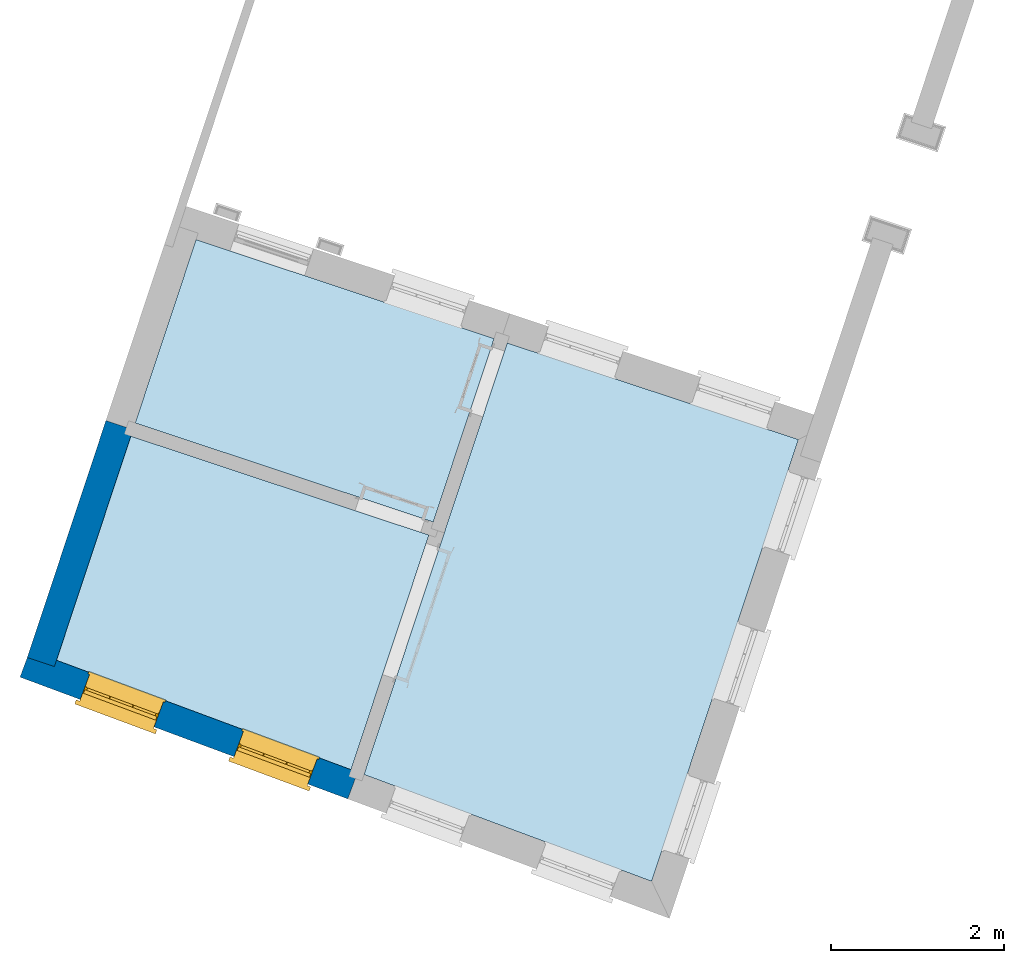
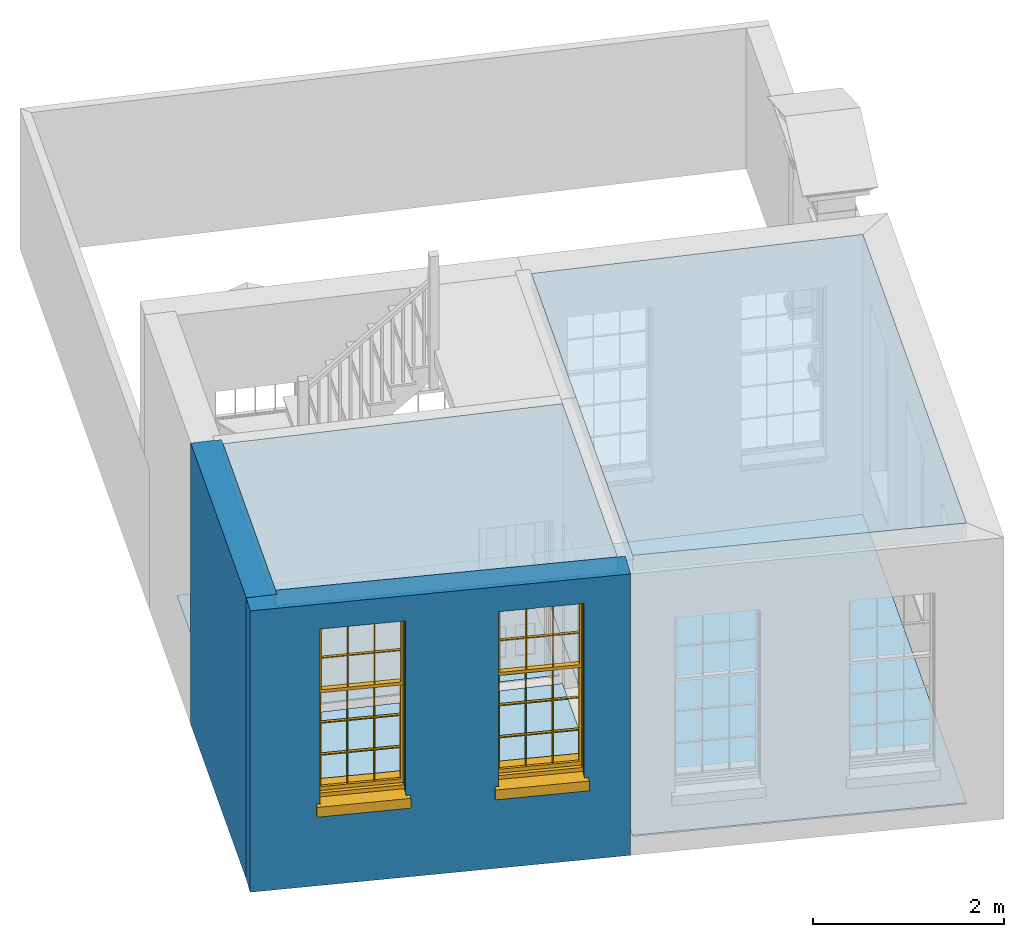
# One storey, part 1 of 6: 5 slabs, 2 walls, 2 windows, 2 openings.
"""IFC4 building model written with IfcOpenShell, lengths in metres."""

from ifc_helpers import new_model, si_unit, frame, origin, origin_with_axes, place, context, subcontext, project, spatial, polyline, outline, extrude, faceted_brep, source, transform, mapped, material, layer, layer_set, layer_usage, type_object, type_shapes, element, fill, save


model = new_model("IFC4")

# Units and contexts
model_context = context("Model", 3, world=origin_with_axes())
body_context = subcontext(model_context, "Body", "Model", "MODEL_VIEW")
ifc_project = project(units=[si_unit("PLANEANGLEUNIT", "RADIAN"), si_unit("MASSUNIT", "GRAM", prefix="KILO"), si_unit("FORCEUNIT", "NEWTON", prefix="KILO"), si_unit("LENGTHUNIT", "METRE"), si_unit("AREAUNIT", "SQUARE_METRE"), si_unit("VOLUMEUNIT", "CUBIC_METRE")], contexts=[model_context, model_context])

# Sites, building, storey
site_1_placement = place(None, origin_with_axes())
site_1 = spatial("IfcSite", under=ifc_project, at=site_1_placement, Name="Tamar")
site_2_placement = place(site_1_placement, origin_with_axes())
site_2 = spatial("IfcSite", under=site_1, at=site_2_placement, Name="Site plot-18", CompositionType="ELEMENT")
building_placement = place(None, origin_with_axes())
building = spatial("IfcBuilding", under=site_2, at=building_placement, Name="Building plot-18", CompositionType="ELEMENT")
storey_placement = place(None, frame((0.0, 0.0, 26.0), z_axis=(0.0, 0.0, 1.0), x_axis=(1.0, 0.0, 0.0)))
storey = spatial("IfcBuildingStorey", under=building, at=storey_placement, Name="plot-18 0", CompositionType="ELEMENT", Elevation=26.0)

# Slabs
slab_1_placement = place(storey_placement, frame((266.466995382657, 293.203901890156, 0.0)))
element("IfcSlab", 1, at=slab_1_placement, inside=storey, Name="My Slab", ObjectType="Slab", PredefinedType="FLOOR", context=body_context, shape_type="SweptSolid", body=[
    extrude(outline(polyline([(0.0, 0.0), (0.704008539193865, 2.12088107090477), (-2.74346626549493, 3.26524118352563), (-3.44747480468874, 1.14436011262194), (0.0, 0.0)])), origin_with_axes(), (0.0, 0.0, 1.0), 0.02),
])
slab_2_placement = place(storey_placement, frame((265.665997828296, 290.282959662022, 3.4)))
element("IfcSlab", 2, at=slab_2_placement, inside=storey, Name="My Slab", ObjectType="Slab", PredefinedType="FLOOR", context=body_context, shape_type="SweptSolid", body=[
    extrude(outline(polyline([(0.0, 0.0), (3.32752075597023, -1.23628445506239), (5.02376988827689, 3.87379940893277), (1.65685870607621, 4.99141710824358), (0.0, 0.0)])), origin_with_axes(), (0.0, 0.0, 1.0), 0.2),
])
slab_3_placement = place(storey_placement, frame((265.665997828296, 290.282959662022, 0.0)))
element("IfcSlab", 3, at=slab_3_placement, inside=storey, Name="My Slab", ObjectType="Slab", PredefinedType="FLOOR", context=body_context, shape_type="SweptSolid", body=[
    extrude(outline(polyline([(0.0, 0.0), (3.32752075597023, -1.23628445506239), (5.02376988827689, 3.87379940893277), (1.65685870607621, 4.99141710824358), (0.0, 0.0)])), origin_with_axes(), (0.0, 0.0, 1.0), 0.02),
])
slab_4_placement = place(storey_placement, frame((265.515921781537, 290.338717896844, 3.4)))
element("IfcSlab", 4, at=slab_4_placement, inside=storey, Name="My Slab", ObjectType="Slab", PredefinedType="FLOOR", context=body_context, shape_type="SweptSolid", body=[
    extrude(outline(polyline([(0.0, 0.0), (0.900667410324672, 2.71333138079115), (-2.54680739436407, 3.85769149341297), (-3.40714184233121, 1.26586633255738), (0.0, 0.0)])), origin_with_axes(), (0.0, 0.0, 1.0), 0.2),
])
slab_5_placement = place(storey_placement, frame((265.515921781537, 290.338717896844, 0.0)))
element("IfcSlab", 5, at=slab_5_placement, inside=storey, Name="My Slab", ObjectType="Slab", PredefinedType="FLOOR", context=body_context, shape_type="SweptSolid", body=[
    extrude(outline(polyline([(0.0, 0.0), (0.900667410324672, 2.71333138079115), (-2.54680739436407, 3.85769149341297), (-3.40714184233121, 1.26586633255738), (0.0, 0.0)])), origin_with_axes(), (0.0, 0.0, 1.0), 0.02),
])

# Wall, openings, windows
ifc_material_1 = material(Name="Masonry")
ifc_layer_1 = layer(ifc_material_1, 0.33, ventilated=False)
ifc_layer_set_1 = layer_set([ifc_layer_1], Name="exterior_0.08_0.25")
ifc_layer_usage_1 = layer_usage(ifc_layer_set_1, "AXIS2", "POSITIVE", -0.25)
wall_type_1 = type_object("IfcWallType", Name="exterior_0.08_0.25", PredefinedType="SOLIDWALL", material=ifc_layer_set_1)
wall_1_placement = place(storey_placement, frame((262.008523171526, 291.556489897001, 0.0), z_axis=(0.0, 0.0, 1.0), x_axis=(0.937393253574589, -0.348272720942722, 0.0)))
wall_1 = element("IfcWall", 6, at=wall_1_placement, inside=storey, type_object=wall_type_1, material=ifc_layer_usage_1, Name="exterior", context=body_context, shape_type="SweptSolid", body=[
    extrude(outline(polyline([(-0.249999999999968, 0.0800000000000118), (-0.250000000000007, -0.249999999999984), (3.79479783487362, -0.249999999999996), (3.79479783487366, 0.0800000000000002), (-0.249999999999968, 0.0800000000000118)])), origin_with_axes(), (0.0, 0.0, 1.0), 3.6),
])
opening_1_placement = place(wall_1_placement, frame((0.493699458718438, 0.0, 1.05)))
opening_1 = element("IfcOpeningElement", 7, at=opening_1_placement, cuts=wall_1, Name="My Opening", ObjectType="Opening", context=body_context, shape_type="SweptSolid", body=[
    extrude(outline(polyline([(0.0, -0.269999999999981), (0.909999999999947, -0.269999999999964), (0.90999999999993, 1.1), (-1.71529457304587e-14, 1.09999999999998), (0.0, -0.269999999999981)])), origin_with_axes(), (0.0, 0.0, 1.0), 2.23),
])
opening_2_placement = place(wall_1_placement, frame((2.39109837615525, 0.0, 1.05)))
opening_2 = element("IfcOpeningElement", 8, at=opening_2_placement, cuts=wall_1, Name="My Opening", ObjectType="Opening", context=body_context, shape_type="SweptSolid", body=[
    extrude(outline(polyline([(0.0, -0.269999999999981), (0.909999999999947, -0.269999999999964), (0.90999999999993, 1.1), (-1.68753899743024e-14, 1.09999999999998), (0.0, -0.269999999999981)])), origin_with_axes(), (0.0, 0.0, 1.0), 2.23),
])
window_type = type_object("IfcWindowType", Name="sash_big_taller", PartitioningType="DOUBLE_PANEL_HORIZONTAL", PredefinedType="NOTDEFINED")
shared_shape = source(origin(), body_context, "Body", "Brep", [
    faceted_brep([(0.033125, 0.145, 1.385209), (0.01, 0.145, 1.385209), (0.033125, 0.145, 1.786042), (0.876875, 0.145, 1.385209), (0.876875, 0.145, 1.786042), (0.9, 0.145, 1.385209), (0.876875, 0.145, 1.796042), (0.876875, 0.145, 2.196875), (0.9, 0.145, 2.22), (0.033125, 0.145, 2.196875), (0.033125, 0.145, 1.796042), (0.01, 0.145, 2.22), (0.876875, 0.115, 1.786042), (0.876875, 0.115, 1.385209), (0.9, 0.115, 1.347084), (0.033125, 0.115, 2.196875), (0.01, 0.115, 2.22), (0.033125, 0.115, 1.796042), (0.01, 0.115, 1.347084), (0.033125, 0.115, 1.385209), (0.033125, 0.115, 1.786042), (0.876875, 0.115, 2.196875), (0.876875, 0.115, 1.796042), (0.9, 0.115, 2.22), (0.033125, 0.145, 1.347084), (0.01, 0.145, 1.347084), (0.033125, 0.145, 0.94625), (0.876875, 0.145, 1.347084), (0.876875, 0.145, 0.94625), (0.9, 0.145, 1.347084), (0.876875, 0.145, 0.52625), (0.876875, 0.145, 0.125417), (0.9, 0.145, 0.077167), (0.033125, 0.145, 0.125417), (0.033125, 0.145, 0.52625), (0.01, 0.145, 0.077167), (-0.0425, 0.0, 0.01), (-0.0425, -0.05, 0.001667), (0.0, 0.0, 0.01), (0.9525, 0.0, 0.01), (0.91, 0.0, 0.01), (0.9525, -0.05, 0.001667), (-0.02, 0.33, 0.077167), (0.0, 0.33, 0.077167), (-0.02, 0.36, 0.077167), (0.0, 0.19, 0.077167), (0.01, 0.19, 0.077167), (0.91, 0.19, 0.077167), (0.91, 0.33, 0.077167), (0.9, 0.19, 0.077167), (0.93, 0.33, 0.077167), (0.93, 0.36, 0.077167), (0.01, 0.175, 1.385209), (0.9, 0.175, 1.385209), (0.876875, 0.175, 0.125417), (0.876875, 0.175, 0.52625), (0.9, 0.175, 0.077167), (0.876875, 0.175, 0.94625), (0.876875, 0.175, 1.347084), (0.033125, 0.175, 0.125417), (0.01, 0.175, 0.077167), (0.033125, 0.175, 0.52625), (0.033125, 0.175, 1.347084), (0.033125, 0.175, 0.94625), (-0.02, 0.33, 0.052167), (-0.02, 0.36, 0.052167), (0.93, 0.36, 0.052167), (0.93, 0.33, 0.052167), (0.91, 0.33, 0.052167), (0.0, 0.33, 0.052167), (0.91, 0.1, 0.026667), (0.0, 0.1, 0.026667), (-0.0425, -0.05, -0.123333), (0.9525, -0.05, -0.123333), (-0.0425, 0.0, -0.123333), (0.9525, 0.0, -0.123333), (0.01, 0.19, 2.22), (0.9, 0.19, 2.22), (0.0, 0.19, 2.23), (0.91, 0.19, 2.23), (0.01, 0.1, 0.077167), (0.9, 0.1, 0.077167), (0.592292, 0.145, 0.125417), (0.592292, 0.175, 0.125417), (0.317708, 0.175, 0.125417), (0.317708, 0.145, 0.125417), (0.592292, 0.145, 0.53625), (0.317708, 0.145, 0.53625), (0.317708, 0.145, 0.52625), (0.592292, 0.145, 0.52625), (0.592292, 0.175, 0.53625), (0.317708, 0.175, 0.53625), (0.592292, 0.115, 1.796042), (0.592292, 0.145, 1.796042), (0.317708, 0.145, 1.796042), (0.317708, 0.115, 1.796042), (0.317708, 0.115, 1.786042), (0.592292, 0.115, 1.786042), (0.317708, 0.145, 1.786042), (0.592292, 0.145, 1.786042), (0.602292, 0.115, 1.786042), (0.592292, 0.115, 1.385209), (0.602292, 0.115, 1.385209), (0.602292, 0.145, 1.385209), (0.592292, 0.145, 1.385209), (0.602292, 0.145, 1.786042), (0.876875, 0.145, 0.53625), (0.876875, 0.175, 0.53625), (0.602292, 0.175, 0.53625), (0.602292, 0.145, 0.53625), (0.317708, 0.175, 0.52625), (0.307708, 0.175, 0.125417), (0.307708, 0.175, 0.52625), (0.602292, 0.175, 0.52625), (0.602292, 0.175, 0.125417), (0.592292, 0.175, 0.52625), (0.307708, 0.175, 0.53625), (0.033125, 0.175, 0.53625), (0.317708, 0.175, 1.347084), (0.317708, 0.175, 0.94625), (0.307708, 0.175, 0.94625), (0.307708, 0.175, 1.347084), (0.602292, 0.175, 1.347084), (0.602292, 0.175, 0.94625), (0.592292, 0.175, 0.94625), (0.592292, 0.175, 1.347084), (0.307708, 0.145, 0.52625), (0.307708, 0.145, 0.125417), (0.307708, 0.145, 0.53625), (0.033125, 0.145, 0.53625), (0.307708, 0.145, 1.347084), (0.307708, 0.145, 0.94625), (0.592292, 0.145, 1.347084), (0.592292, 0.145, 0.94625), (0.317708, 0.145, 0.94625), (0.317708, 0.145, 1.347084), (0.602292, 0.145, 0.94625), (0.602292, 0.145, 1.347084), (0.602292, 0.145, 0.52625), (0.602292, 0.145, 0.125417), (0.307708, 0.115, 1.796042), (0.307708, 0.115, 1.786042), (0.307708, 0.115, 1.385209), (0.317708, 0.115, 1.385209), (0.317708, 0.115, 2.196875), (0.307708, 0.115, 2.196875), (0.602292, 0.115, 2.196875), (0.592292, 0.115, 2.196875), (0.602292, 0.115, 1.796042), (0.602292, 0.145, 1.796042), (0.307708, 0.145, 1.796042), (0.307708, 0.145, 2.196875), (0.317708, 0.145, 2.196875), (0.592292, 0.145, 2.196875), (0.602292, 0.145, 2.196875), (0.307708, 0.145, 1.786042), (0.317708, 0.145, 1.385209), (0.307708, 0.145, 1.385209), (0.876875, 0.175, 0.93625), (0.033125, 0.175, 0.93625), (0.033125, 0.145, 0.93625), (0.876875, 0.145, 0.93625), (0.91, 0.1, 2.23), (0.9, 0.1, 2.22), (0.01, 0.1, 2.22), (0.0, 0.1, 2.23), (0.91, 0.0, 0.0), (0.0, 0.0, 0.0), (0.91, 0.33, 0.0), (0.0, 0.33, 0.0), (0.317708, 0.145, 0.93625), (0.592292, 0.145, 0.93625), (0.317708, 0.175, 0.93625), (0.307708, 0.175, 0.93625), (0.602292, 0.175, 0.93625), (0.592292, 0.175, 0.93625), (0.307708, 0.145, 0.93625), (0.602292, 0.145, 0.93625)], [[[0, 1, 2]], [[3, 4, 5]], [[6, 7, 8]], [[9, 10, 11]], [[12, 13, 14]], [[15, 16, 17]], [[18, 19, 20]], [[21, 22, 23]], [[24, 25, 26]], [[27, 28, 29]], [[30, 31, 32]], [[33, 34, 35]], [[14, 27, 29]], [[25, 24, 18]], [[36, 37, 38]], [[39, 40, 41]], [[42, 43, 44]], [[45, 46, 43]], [[47, 48, 49]], [[50, 51, 48]], [[1, 0, 52]], [[5, 53, 3]], [[54, 55, 56]], [[57, 58, 53]], [[59, 60, 61]], [[62, 63, 52]], [[48, 43, 46, 49]], [[51, 44, 43, 48]], [[64, 42, 44, 65]], [[65, 44, 51, 66]], [[66, 51, 50, 67]], [[65, 66, 68, 69]], [[60, 56, 49, 46]], [[70, 71, 38, 40]], [[37, 41, 40, 38]], [[37, 72, 73, 41]], [[74, 75, 73, 72]], [[8, 11, 76, 77]], [[76, 78, 79, 77]], [[32, 35, 80, 81]], [[81, 80, 71, 70]], [[82, 83, 84, 85]], [[86, 87, 88, 89]], [[86, 90, 91, 87]], [[92, 93, 94, 95]], [[92, 95, 96, 97]], [[96, 98, 99, 97]], [[100, 97, 101, 102]], [[103, 104, 99, 105]], [[97, 99, 104, 101]], [[102, 103, 105, 100]], [[106, 107, 108, 109]], [[110, 84, 111, 112]], [[113, 114, 83, 115]], [[116, 112, 61, 117]], [[90, 115, 110, 91]], [[118, 119, 120, 121]], [[122, 123, 124, 125]], [[113, 108, 107, 55]], [[126, 112, 111, 127]], [[34, 61, 112, 126]], [[89, 115, 83, 82]], [[88, 110, 115, 89]], [[85, 84, 110, 88]], [[128, 116, 117, 129]], [[130, 121, 120, 131]], [[132, 125, 124, 133]], [[134, 119, 118, 135]], [[136, 123, 122, 137]], [[138, 113, 55, 30]], [[139, 114, 113, 138]], [[138, 30, 106, 109]], [[88, 126, 127, 85]], [[138, 89, 82, 139]], [[137, 132, 133, 136]], [[128, 129, 34, 126]], [[135, 130, 131, 134]], [[140, 17, 20, 141]], [[96, 141, 142, 143]], [[144, 145, 140, 95]], [[146, 147, 92, 148]], [[100, 12, 22, 148]], [[149, 6, 4, 105]], [[94, 150, 151, 152]], [[149, 93, 153, 154]], [[99, 98, 94, 93]], [[155, 2, 10, 150]], [[156, 157, 155, 98]], [[141, 155, 157, 142]], [[20, 2, 155, 141]], [[143, 156, 98, 96]], [[140, 150, 10, 17]], [[145, 151, 150, 140]], [[147, 153, 93, 92]], [[95, 94, 152, 144]], [[22, 6, 149, 148]], [[148, 149, 154, 146]], [[100, 105, 4, 12]], [[109, 86, 89, 138]], [[108, 113, 115, 90]], [[91, 110, 112, 116]], [[87, 128, 126, 88]], [[97, 100, 148, 92]], [[141, 96, 95, 140]], [[98, 155, 150, 94]], [[105, 99, 93, 149]], [[143, 101, 104, 156]], [[135, 118, 125, 132]], [[144, 152, 153, 147]], [[127, 111, 59, 33]], [[15, 9, 151, 145]], [[146, 154, 7, 21]], [[31, 54, 114, 139]], [[36, 74, 72, 37]], [[39, 41, 73, 75]], [[18, 14, 101, 143]], [[23, 16, 144, 147]], [[83, 56, 60, 84]], [[52, 53, 125, 118]], [[53, 52, 156, 104]], [[11, 8, 153, 152]], [[14, 18, 135, 132]], [[2, 1, 11, 10]], [[8, 5, 4, 6]], [[57, 53, 56, 158]], [[60, 52, 63, 159]], [[26, 25, 35, 160]], [[32, 29, 28, 161]], [[14, 23, 22, 12]], [[18, 20, 17, 16]], [[19, 0, 2, 20]], [[17, 10, 9, 15]], [[12, 4, 3, 13]], [[21, 7, 6, 22]], [[27, 58, 57, 28]], [[30, 55, 54, 31]], [[33, 59, 61, 34]], [[26, 63, 62, 24]], [[5, 8, 77, 53]], [[76, 11, 1, 52]], [[46, 45, 78, 76]], [[49, 77, 79, 47]], [[70, 162, 163, 81]], [[71, 80, 164, 165]], [[19, 142, 157, 0]], [[102, 13, 3, 103]], [[121, 130, 24, 62]], [[29, 32, 81, 14]], [[80, 35, 25, 18]], [[60, 46, 76, 52]], [[77, 49, 56, 53]], [[23, 14, 81, 163]], [[16, 164, 80, 18]], [[35, 85, 127]], [[127, 33, 35]], [[139, 82, 32]], [[32, 31, 139]], [[32, 82, 85, 35]], [[102, 101, 14]], [[14, 13, 102]], [[18, 143, 142]], [[142, 19, 18]], [[146, 21, 23]], [[23, 147, 146]], [[16, 15, 145]], [[145, 144, 16]], [[11, 152, 151]], [[151, 9, 11]], [[154, 153, 8]], [[8, 7, 154]], [[23, 163, 164, 16]], [[162, 165, 164, 163]], [[52, 118, 121]], [[121, 62, 52]], [[125, 53, 122]], [[58, 122, 53]], [[27, 137, 122, 58]], [[56, 83, 114]], [[114, 54, 56]], [[111, 84, 60]], [[60, 59, 111]], [[137, 27, 14]], [[14, 132, 137]], [[130, 135, 18]], [[18, 24, 130]], [[157, 156, 52]], [[52, 0, 157]], [[103, 3, 53]], [[53, 104, 103]], [[79, 78, 165, 162]], [[78, 45, 71, 165]], [[162, 70, 47, 79]], [[166, 75, 74, 167]], [[68, 66, 67]], [[48, 68, 67, 50]], [[69, 64, 65]], [[42, 64, 69, 43]], [[69, 68, 168, 169]], [[70, 68, 48, 47]], [[166, 168, 68, 70]], [[43, 69, 71, 45]], [[69, 169, 167, 71]], [[168, 166, 167, 169]], [[38, 167, 74, 36]], [[71, 167, 38]], [[39, 75, 166, 40]], [[40, 166, 70]], [[133, 134, 170, 171]], [[133, 124, 119, 134]], [[28, 57, 123, 136]], [[172, 91, 116, 173]], [[174, 108, 90, 175]], [[120, 173, 159, 63]], [[124, 175, 172, 119]], [[174, 123, 57, 158]], [[176, 173, 116, 128]], [[160, 159, 173, 176]], [[171, 175, 90, 86]], [[170, 172, 175, 171]], [[87, 91, 172, 170]], [[131, 120, 63, 26]], [[177, 174, 158, 161]], [[109, 108, 174, 177]], [[177, 161, 28, 136]], [[170, 176, 128, 87]], [[177, 171, 86, 109]], [[131, 26, 160, 176]], [[136, 133, 171, 177]], [[123, 174, 175, 124]], [[119, 172, 173, 120]], [[134, 131, 176, 170]], [[129, 117, 159, 160]], [[161, 158, 107, 106]], [[35, 34, 129]], [[35, 129, 160]], [[32, 106, 30]], [[32, 161, 106]], [[56, 55, 107]], [[56, 107, 158]], [[60, 117, 61]], [[60, 159, 117]]]),
])
type_shapes(window_type, [shared_shape])
window_1_placement = place(storey_placement, frame((262.377280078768, 291.13145166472, 1.05), z_axis=(0.0, 0.0, 1.0), x_axis=(0.853027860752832, -0.316928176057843, 0.0)))
window_1 = element("IfcWindow", 9, at=window_1_placement, inside=storey, type_object=window_type, Name="kitchen street window", OverallHeight=2.23, OverallWidth=0.91, context=body_context, shape_type="MappedRepresentation", body=[
    mapped(shared_shape, transform((0.0, 0.0, 0.0), scale=1.0)),
])
fill(opening_1, window_1)
window_2_placement = place(storey_placement, frame((264.155889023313, 290.470639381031, 1.05), z_axis=(0.0, 0.0, 1.0), x_axis=(0.853027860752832, -0.316928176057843, 0.0)))
window_2 = element("IfcWindow", 10, at=window_2_placement, inside=storey, type_object=window_type, Name="kitchen street window", OverallHeight=2.23, OverallWidth=0.91, context=body_context, shape_type="MappedRepresentation", body=[
    mapped(shared_shape, transform((0.0, 0.0, 0.0), scale=1.0)),
])
fill(opening_2, window_2)

# Wall
ifc_material_2 = material(Name="Masonry")
ifc_layer_2 = layer(ifc_material_2, 0.33, ventilated=False)
ifc_layer_set_2 = layer_set([ifc_layer_2], Name="party_0.08_0.25")
ifc_layer_usage_2 = layer_usage(ifc_layer_set_2, "AXIS2", "POSITIVE", -0.25)
wall_type_2 = type_object("IfcWallType", Name="party_0.08_0.25", PredefinedType="SOLIDWALL", material=ifc_layer_set_2)
wall_2_placement = place(storey_placement, frame((262.91839117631, 294.297538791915, 0.0), z_axis=(0.0, 0.0, 1.0), x_axis=(-0.315038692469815, -0.949078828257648, 0.0)))
element("IfcWall", 11, at=wall_2_placement, inside=storey, type_object=wall_type_2, material=ifc_layer_usage_2, Name="party", context=body_context, shape_type="SweptSolid", body=[
    extrude(outline(polyline([(-2.63047769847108e-14, 0.0799999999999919), (-2.35214200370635e-14, -0.249999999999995), (2.88811509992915, -0.249999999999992), (2.88811509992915, 0.0799999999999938), (-2.63047769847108e-14, 0.0799999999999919)])), origin_with_axes(), (0.0, 0.0, 1.0), 3.6),
])

save(model, "model.ifc")
